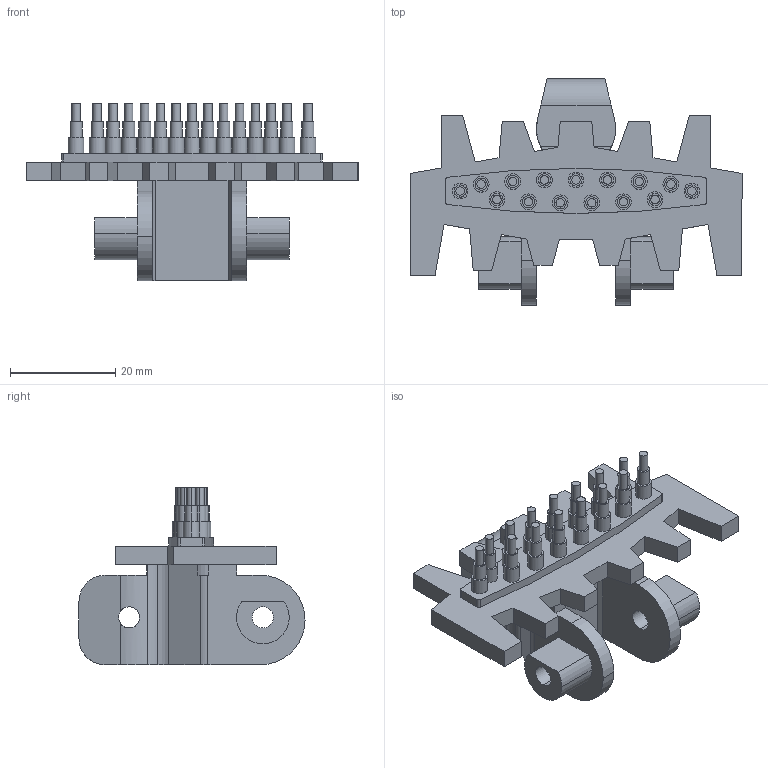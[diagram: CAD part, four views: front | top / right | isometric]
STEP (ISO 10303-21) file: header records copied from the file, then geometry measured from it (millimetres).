
FILE_DESCRIPTION (( 'STEP AP214' ), '1' );
FILE_NAME ('FSWT-5A.STEP', '2011-04-14T11:15:16', ( '.' ), ( '' ), 'SwSTEP 2.0', 'SolidWorks 2010', '' );
FILE_SCHEMA (( 'AUTOMOTIVE_DESIGN' ));
Length unit declared in the file: millimetre
Products named in the file (1): FSWT-5A
Bounding box: 63 x 42.9 x 33.7 mm (x, y, z)
Volume: 14253.4 mm3; surface area: 8798.6 mm2
Topology: 1 solids, 1 shells, 246 faces, 590 edges, 392 vertices
Faces by surface type: cylinder 124, plane 122
Entity records: 8371 total; most frequent: CARTESIAN_POINT 1343, DIRECTION 1312, ORIENTED_EDGE 1180, EDGE_CURVE 590, AXIS2_PLACEMENT_3D 489, VERTEX_POINT 392, VECTOR 334, LINE 334
